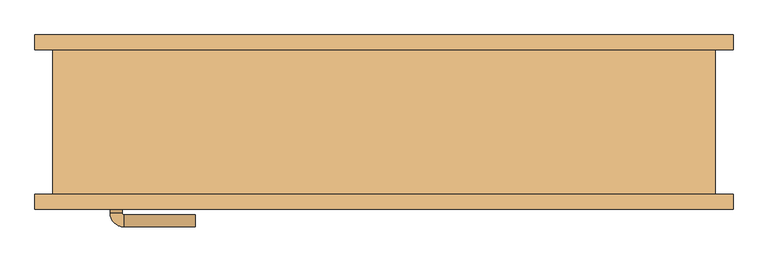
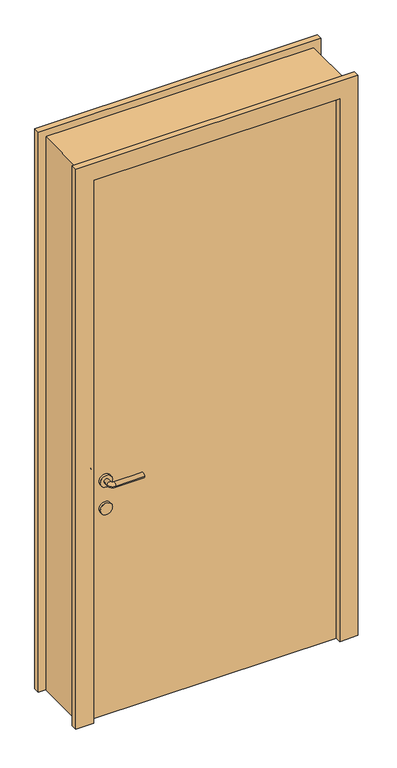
"""IFC4 building model written with IfcOpenShell, lengths in millimetres: door geometry, 单扇平开木门1 : FM甲2."""

from ifc_helpers import new_model, si_unit, point, frame, frame_2d, origin, origin_with_axes, place, context, project, spatial, polyline, circle_curve, ellipse_curve, trimmed, segment, composite_curve, outline, extrude, source, transform, mapped, element, save
from ifc_brep_helpers import plane_surface, cylinder_surface, revolved_surface, advanced_brep


def door_c5165c53(model_context):
    return source(origin(), model_context, "Body", "SolidModel", [
        extrude(outline(composite_curve([segment(trimmed(circle_curve(frame_2d((900.0, -445.0)), 25.0), [point((900.0, -420.0))], [point((900.0, -470.0))], False, "CARTESIAN"), True, "CONTINUOUS"), segment(trimmed(circle_curve(frame_2d((900.0, -445.0)), 25.0), [point((900.0, -470.0))], [point((900.0, -420.0))], False, "CARTESIAN"), True, "CONTINUOUS")], self_intersect=False)), frame((0.0, -70.0, 0.0), z_axis=(0.0, 1.0, 0.0), x_axis=(0.0, 0.0, 1.0)), (0.0, 0.0, 1.0), 10.0),
        extrude(outline(composite_curve([segment(trimmed(circle_curve(frame_2d((900.0, -445.0)), 25.0), [point((900.0, -420.0))], [point((900.0, -470.0))], False, "CARTESIAN"), True, "CONTINUOUS"), segment(trimmed(circle_curve(frame_2d((900.0, -445.0)), 25.0), [point((900.0, -470.0))], [point((900.0, -420.0))], False, "CARTESIAN"), True, "CONTINUOUS")], self_intersect=False)), frame((0.0, -130.0, 0.0), z_axis=(0.0, 1.0, 0.0), x_axis=(0.0, 0.0, 1.0)), (0.0, 0.0, 1.0), 10.0),
        advanced_brep(
        [(-455.0, -60.0, 1020.0), (-435.0, -60.0, 1020.0), (-455.0, -39.386645, 1020.0), (-435.0, -39.386645, 1020.0), (-313.419036, -16.419036, 1020.0), (-313.419036, -36.419036, 1020.0), (-432.0323911, -36.419036, 1020.0), (-432.0323911, -16.419036, 1020.0)],
        [
            (0, 1, circle_curve(frame((-445.0, -60.0, 1020.0), z_axis=(0.0, -1.0, 0.0), x_axis=(1.0, 0.0, 0.0)), 10.0)),
            (1, 0, circle_curve(frame((-445.0, -60.0, 1020.0), z_axis=(0.0, -1.0, 0.0), x_axis=(1.0, 0.0, 0.0)), 10.0)),
            (0, 2),
            (2, 3, circle_curve(frame((-445.0, -39.386645, 1020.0), z_axis=(0.0, -1.0, 0.0), x_axis=(1.0, 0.0, 0.0)), 10.0)),
            (3, 1),
            (3, 2, circle_curve(frame((-445.0, -39.386645, 1020.0), z_axis=(0.0, -1.0, 0.0), x_axis=(1.0, 0.0, 0.0)), 10.0)),
            (4, 5, circle_curve(frame((-313.419036, -26.419036, 1020.0), z_axis=(1.0, 0.0, 0.0), x_axis=(0.0, -1.0, 0.0)), 10.0)),
            (5, 4, circle_curve(frame((-313.419036, -26.419036, 1020.0), z_axis=(1.0, 0.0, 0.0), x_axis=(0.0, -1.0, 0.0)), 10.0)),
            (6, 7, circle_curve(frame((-432.0323911, -26.419036, 1020.0), z_axis=(-1.0, 0.0, 0.0), x_axis=(0.0, -1.0, 0.0)), 10.0)),
            (7, 2, circle_curve(frame((-432.0323911, -39.386645, 1020.0), z_axis=(0.0, 0.0, 1.0), x_axis=(-1.0, 0.0, 0.0)), 22.9676089)),
            (3, 6, circle_curve(frame((-432.0323911, -39.386645, 1020.0), z_axis=(0.0, 0.0, -1.0), x_axis=(-1.0, 0.0, 0.0)), 2.9676089)),
            (7, 6, circle_curve(frame((-432.0323911, -26.419036, 1020.0), z_axis=(-1.0, 0.0, 0.0), x_axis=(0.0, -1.0, 0.0)), 10.0)),
            (6, 5),
            (4, 7),
        ],
        [
            plane_surface(frame((-445.0, -60.0, 900.0), z_axis=(0.0, -1.0, 0.0), x_axis=(0.0, 0.0, 1.0))),
            cylinder_surface(frame((-445.0, -60.0, 1020.0), z_axis=(0.0, -1.0, 0.0), x_axis=(1.0, 0.0, 0.0)), 10.0),
            plane_surface(frame((-313.419036, -26.419036, 900.0), z_axis=(1.0, 0.0, 0.0), x_axis=(0.0, 0.0, 1.0))),
            revolved_surface(trimmed(ellipse_curve(frame((-445.0, -39.386645, 1020.0), z_axis=(0.0, 1.0, 0.0), x_axis=(1.0, 0.0, 0.0)), 10.0, 10.0), [point((-455.0, -39.386645, 1020.0))], [point((-435.0, -39.386645, 1020.0))], True, "CARTESIAN"), (-432.0323911, -39.386645, 900.0), (0.0, 0.0, 1.0)),
            revolved_surface(trimmed(ellipse_curve(frame((-445.0, -39.386645, 1020.0), z_axis=(0.0, 1.0, 0.0), x_axis=(1.0, 0.0, 0.0)), 10.0, 10.0), [point((-435.0, -39.386645, 1020.0))], [point((-455.0, -39.386645, 1020.0))], True, "CARTESIAN"), (-432.0323911, -39.386645, 900.0), (0.0, 0.0, 1.0)),
            cylinder_surface(frame((-432.0323911, -26.419036, 1020.0), z_axis=(-1.0, 0.0, 0.0), x_axis=(0.0, -1.0, 0.0)), 10.0),
        ],
        [
            (0, [[1, 2]]),
            (1, [[3, 4, 5, -1]]),
            (1, [[-5, 6, -3, -2]]),
            (2, [[7, 8]]),
            (3, [[9, 10, -6, 11]]),
            (4, [[12, -11, -4, -10]]),
            (5, [[13, -7, 14, -9]]),
            (5, [[-14, -8, -13, -12]]),
        ],
    ),
        extrude(outline(composite_curve([segment(trimmed(circle_curve(frame_2d((1020.0, -445.0)), 25.0), [point((1020.0, -420.0))], [point((1020.0, -470.0))], False, "CARTESIAN"), True, "CONTINUOUS"), segment(trimmed(circle_curve(frame_2d((1020.0, -445.0)), 25.0), [point((1020.0, -470.0))], [point((1020.0, -420.0))], False, "CARTESIAN"), True, "CONTINUOUS")], self_intersect=False)), frame((0.0, -70.0, 0.0), z_axis=(0.0, 1.0, 0.0), x_axis=(0.0, 0.0, 1.0)), (0.0, 0.0, 1.0), 10.0),
        advanced_brep(
        [(-435.0, -130.0, 1020.0), (-455.0, -130.0, 1020.0), (-455.0, -150.6133551, 1020.0), (-435.0, -150.6133551, 1020.0), (-313.419036, -153.580964, 1020.0), (-313.419036, -173.580964, 1020.0), (-432.0323911, -173.580964, 1020.0), (-432.0323911, -153.580964, 1020.0)],
        [
            (0, 1, circle_curve(frame((-445.0, -130.0, 1020.0), z_axis=(0.0, 1.0, 0.0), x_axis=(-1.0, 0.0, 0.0)), 10.0)),
            (1, 0, circle_curve(frame((-445.0, -130.0, 1020.0), z_axis=(0.0, 1.0, 0.0), x_axis=(-1.0, 0.0, 0.0)), 10.0)),
            (1, 2),
            (2, 3, circle_curve(frame((-445.0, -150.6133551, 1020.0), z_axis=(0.0, 1.0, 0.0), x_axis=(-1.0, 0.0, 0.0)), 10.0)),
            (3, 0),
            (3, 2, circle_curve(frame((-445.0, -150.6133551, 1020.0), z_axis=(0.0, 1.0, 0.0), x_axis=(-1.0, 0.0, 0.0)), 10.0)),
            (4, 5, circle_curve(frame((-313.419036, -163.580964, 1020.0), z_axis=(1.0, 0.0, 0.0), x_axis=(0.0, -1.0, 0.0)), 10.0)),
            (5, 4, circle_curve(frame((-313.419036, -163.580964, 1020.0), z_axis=(1.0, 0.0, 0.0), x_axis=(0.0, -1.0, 0.0)), 10.0)),
            (6, 7, circle_curve(frame((-432.0323911, -163.580964, 1020.0), z_axis=(-1.0, 0.0, 0.0), x_axis=(0.0, -1.0, 0.0)), 10.0)),
            (7, 3, circle_curve(frame((-432.0323911, -150.6133551, 1020.0), z_axis=(0.0, 0.0, -1.0), x_axis=(-1.0, 0.0, 0.0)), 2.9676089)),
            (2, 6, circle_curve(frame((-432.0323911, -150.6133551, 1020.0), z_axis=(0.0, 0.0, 1.0), x_axis=(-1.0, 0.0, 0.0)), 22.9676089)),
            (7, 6, circle_curve(frame((-432.0323911, -163.580964, 1020.0), z_axis=(-1.0, 0.0, 0.0), x_axis=(0.0, -1.0, 0.0)), 10.0)),
            (6, 5),
            (4, 7),
        ],
        [
            plane_surface(frame((-445.0, -130.0, 900.0), z_axis=(0.0, 1.0, 0.0), x_axis=(0.0, 0.0, 1.0))),
            cylinder_surface(frame((-445.0, -130.0, 1020.0), z_axis=(0.0, 1.0, 0.0), x_axis=(-1.0, 0.0, 0.0)), 10.0),
            plane_surface(frame((-313.419036, -163.580964, 900.0), z_axis=(1.0, 0.0, 0.0), x_axis=(0.0, 0.0, 1.0))),
            revolved_surface(trimmed(ellipse_curve(frame((-445.0, -150.6133551, 1020.0), z_axis=(0.0, -1.0, 0.0), x_axis=(-1.0, 0.0, 0.0)), 10.0, 10.0), [point((-435.0, -150.6133551, 1020.0))], [point((-455.0, -150.6133551, 1020.0))], True, "CARTESIAN"), (-432.0323911, -150.6133551, 900.0), (0.0, 0.0, -1.0)),
            revolved_surface(trimmed(ellipse_curve(frame((-445.0, -150.6133551, 1020.0), z_axis=(0.0, -1.0, 0.0), x_axis=(-1.0, 0.0, 0.0)), 10.0, 10.0), [point((-455.0, -150.6133551, 1020.0))], [point((-435.0, -150.6133551, 1020.0))], True, "CARTESIAN"), (-432.0323911, -150.6133551, 900.0), (0.0, 0.0, -1.0)),
            cylinder_surface(frame((-432.0323911, -163.580964, 1020.0), z_axis=(-1.0, 0.0, 0.0), x_axis=(0.0, -1.0, 0.0)), 10.0),
        ],
        [
            (0, [[1, 2]]),
            (1, [[3, 4, 5, -2]]),
            (1, [[-5, 6, -3, -1]]),
            (2, [[7, 8]]),
            (3, [[9, 10, -4, 11]]),
            (4, [[12, -11, -6, -10]]),
            (5, [[13, -7, 14, -9]]),
            (5, [[-14, -8, -13, -12]]),
        ],
    ),
        extrude(outline(composite_curve([segment(trimmed(circle_curve(frame_2d((1020.0, -445.0)), 25.0), [point((1020.0, -420.0))], [point((1020.0, -470.0))], False, "CARTESIAN"), True, "CONTINUOUS"), segment(trimmed(circle_curve(frame_2d((1020.0, -445.0)), 25.0), [point((1020.0, -470.0))], [point((1020.0, -420.0))], False, "CARTESIAN"), True, "CONTINUOUS")], self_intersect=False)), frame((0.0, -130.0, 0.0), z_axis=(0.0, 1.0, 0.0), x_axis=(0.0, 0.0, 1.0)), (0.0, 0.0, 1.0), 10.0),
        extrude(outline(polyline([(0.0, 580.0), (2430.0, 580.0), (2430.0, -580.0), (0.0, -580.0), (0.0, -505.0), (2355.0, -505.0), (2355.0, 505.0), (0.0, 505.0), (0.0, 580.0)])), frame((0.0, -145.0, 0.0), z_axis=(0.0, 1.0, 0.0), x_axis=(0.0, 0.0, 1.0)), (0.0, 0.0, 1.0), 25.0),
        extrude(outline(polyline([(2430.0, 580.0), (2430.0, -580.0), (0.0, -580.0), (0.0, -505.0), (2355.0, -505.0), (2355.0, 505.0), (0.0, 505.0), (0.0, 580.0), (2430.0, 580.0)])), frame((0.0, 120.0, 0.0), z_axis=(0.0, 1.0, 0.0), x_axis=(0.0, 0.0, 1.0)), (0.0, 0.0, 1.0), 25.0),
        extrude(outline(polyline([(505.0, -70.0), (505.0, -120.0), (-505.0, -120.0), (-505.0, -70.0), (505.0, -70.0)])), origin_with_axes(), (0.0, 0.0, 1.0), 2355.0),
        extrude(outline(polyline([(2400.0, -550.0), (0.0, -550.0), (0.0, -505.0), (2355.0, -505.0), (2355.0, 505.0), (0.0, 505.0), (0.0, 550.0), (2400.0, 550.0), (2400.0, -550.0)])), frame((0.0, -120.0, 0.0), z_axis=(0.0, 1.0, 0.0), x_axis=(0.0, 0.0, 1.0)), (0.0, 0.0, 1.0), 240.0),
    ])


if __name__ == "__main__":
    model = new_model("IFC4")
    model_context = context("Model", 3, world=origin())
    ifc_project = project(units=[si_unit("LENGTHUNIT", "METRE", prefix="MILLI")], contexts=[model_context])
    site = spatial("IfcSite", under=ifc_project)
    building = spatial("IfcBuilding", under=site)
    placement = place(None, origin())
    door_shape = door_c5165c53(model_context)
    element("IfcDoor", 1, ObjectType="单扇平开木门1 : FM甲2", at=placement, inside=building, context=model_context, shape_type="MappedRepresentation", body=[
        mapped(door_shape, transform((0.0, 0.0, 0.0), x_axis=(1.0, 0.0, 0.0), y_axis=(0.0, 1.0, 0.0), z_axis=(0.0, 0.0, 1.0))),
    ])
    save(model, "model.ifc")
